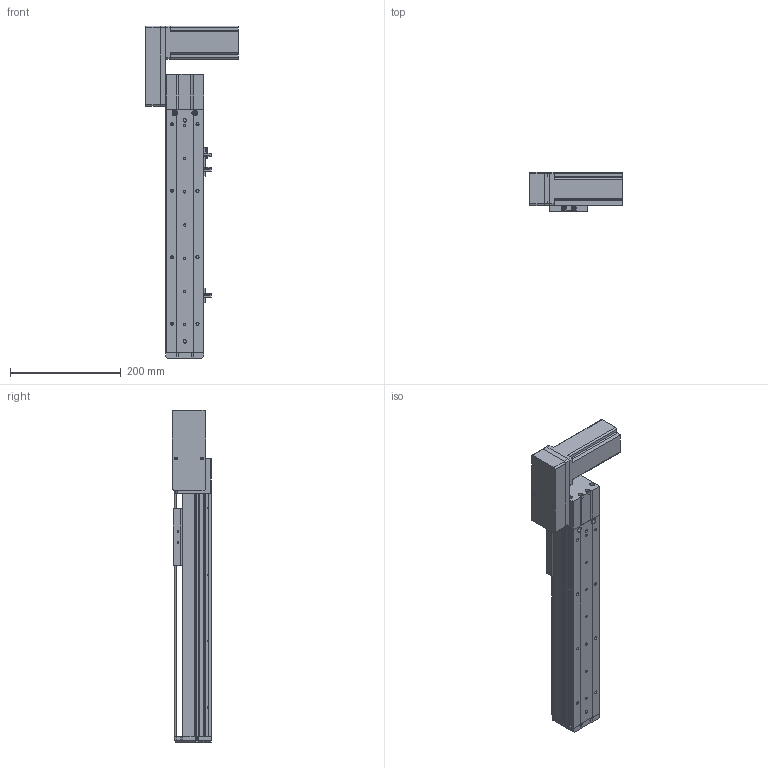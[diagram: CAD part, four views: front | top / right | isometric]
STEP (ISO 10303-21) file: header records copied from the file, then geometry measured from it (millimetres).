
FILE_DESCRIPTION (( 'STEP AP214' ), '1' );
FILE_NAME ('KSD68BS-S250-MRB-CM.STEP', '2019-11-06T07:17:46', ( '微软用户' ), ( '微软中国' ), 'SwSTEP 2.0', 'SolidWorks 2014', '' );
FILE_SCHEMA (( 'AUTOMOTIVE_DESIGN' ));
Length unit declared in the file: millimetre
Products named in the file (11): 68宽马达安装板连板上折同步带; 68宽单导轨半封闭同步带主动轮座右; 68单导轨同步带半封闭端板; KSD68BS 250俴最裔啣圉猾敕; 覜茼え68遵圉猾敕; KSD68BS半封闭同步带传动导轨座; U倰嫖萇EEㄜSX672; 台达ECMA－C20604AS伺服电机（400W); KSD68BS 250俴最菁啣圉猾敕; KSD68BS-S250-MRB-CM; 悵誘欶奻狟殏
Assembly tree (12 placements, depth 2):
  KSD68BS-S250-MRB-CM
    KSD68BS 250俴最菁啣圉猾敕
    台达ECMA－C20604AS伺服电机（400W)
    U倰嫖萇EEㄜSX672  x3
    KSD68BS半封闭同步带传动导轨座
    覜茼え68遵圉猾敕
    KSD68BS 250俴最裔啣圉猾敕
    68单导轨同步带半封闭端板
    68宽单导轨半封闭同步带主动轮座右
    68宽马达安装板连板上折同步带
    悵誘欶奻狟殏
Bounding box: 167.2 x 70.5 x 599.5 mm (x, y, z)
Volume: 1424647.7 mm3; surface area: 432452.6 mm2
Topology: 13 solids, 13 shells, 1202 faces, 3378 edges, 2190 vertices
Faces by surface type: cylinder 564, plane 555, cone 83
Entity records: 41281 total; most frequent: CARTESIAN_POINT 7314, DIRECTION 5588, ORIENTED_EDGE 5508, EDGE_CURVE 2754, AXIS2_PLACEMENT_3D 1992, VERTEX_POINT 1814, VECTOR 1604, LINE 1604
